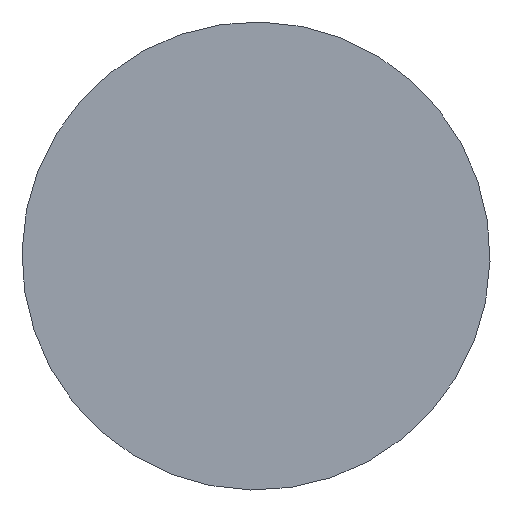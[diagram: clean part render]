
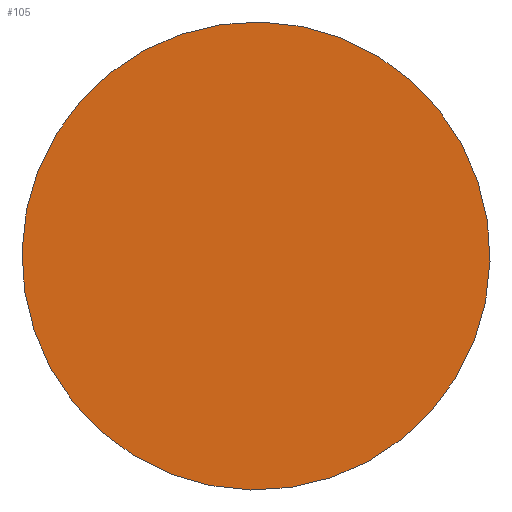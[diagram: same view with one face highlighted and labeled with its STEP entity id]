
A CAD part, front view. The second image highlights one B-rep face of the part: STEP entity #105.
In plain terms, the highlighted planar face has unit normal (0, -1, 0).
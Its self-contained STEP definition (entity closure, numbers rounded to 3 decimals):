
#56=CARTESIAN_POINT('Axis2P3D Location',(0.,0.,0.)) ;
#60=CARTESIAN_POINT('Vertex',(162.353,0.,88.694)) ;
#62=CARTESIAN_POINT('Vertex',(-162.353,0.,-88.694)) ;
#91=CARTESIAN_POINT('Axis2P3D Location',(0.,0.,0.)) ;
#96=CARTESIAN_POINT('Axis2P3D Location',(0.,0.,0.)) ;
#57=DIRECTION('Axis2P3D Direction',(0.,-1.,0.)) ;
#92=DIRECTION('Axis2P3D Direction',(0.,-1.,0.)) ;
#93=DIRECTION('Axis2P3D XDirection',(1.,0.,0.)) ;
#97=DIRECTION('Axis2P3D Direction',(0.,-1.,0.)) ;
#58=AXIS2_PLACEMENT_3D('Circle Axis2P3D',#56,#57,$) ;
#94=AXIS2_PLACEMENT_3D('Plane Axis2P3D',#91,#92,#93) ;
#98=AXIS2_PLACEMENT_3D('Circle Axis2P3D',#96,#97,$) ;
#102=ORIENTED_EDGE('',*,*,#64,.T.) ;
#103=ORIENTED_EDGE('',*,*,#100,.T.) ;
#105=ADVANCED_FACE('PartBody',(#104),#95,.T.) ;
#59=CIRCLE('generated circle',#58,185.) ;
#99=CIRCLE('generated circle',#98,185.) ;
#64=EDGE_CURVE('',#61,#63,#59,.T.) ;
#100=EDGE_CURVE('',#63,#61,#99,.T.) ;
#101=EDGE_LOOP('',(#102,#103)) ;
#104=FACE_OUTER_BOUND('',#101,.T.) ;
#95=PLANE('',#94) ;
#61=VERTEX_POINT('',#60) ;
#63=VERTEX_POINT('',#62) ;
